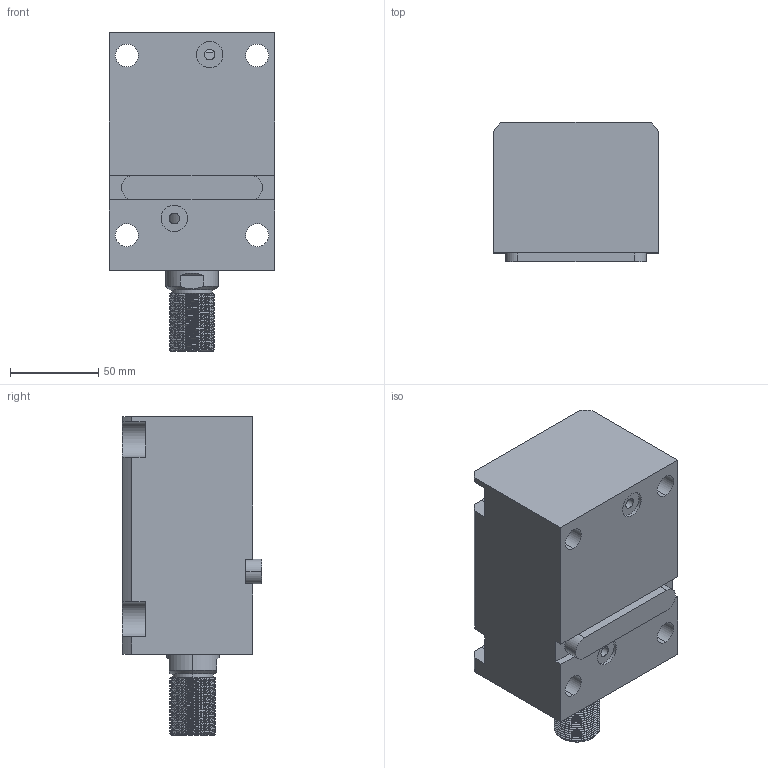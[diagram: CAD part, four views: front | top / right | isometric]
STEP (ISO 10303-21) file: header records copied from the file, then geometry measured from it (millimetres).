
FILE_DESCRIPTION (( 'STEP AP203' ), '1' );
FILE_NAME ('CHTB-LAM50-75W.STEP', '2018-05-23T11:10:12', ( '' ), ( '' ), 'SwSTEP 2.0', 'SolidWorks 2015', '' );
FILE_SCHEMA (( 'CONFIG_CONTROL_DESIGN' ));
Length unit declared in the file: millimetre
Products named in the file (4): 活塞杆LAM50-75W; CHTM-SDMA50QG; 掛极LAM50-75W; CHTB-LAM50-75W
Assembly tree (3 placements, depth 2):
  CHTB-LAM50-75W
    掛极LAM50-75W
    活塞杆LAM50-75W
    CHTM-SDMA50QG
Bounding box: 94 x 79 x 181 mm (x, y, z)
Volume: 815698.1 mm3; surface area: 129964.2 mm2
Topology: 3 solids, 3 shells, 234 faces, 652 edges, 436 vertices
Faces by surface type: cylinder 136, plane 53, bspline 16, torus 16, cone 13
Entity records: 14802 total; most frequent: CARTESIAN_POINT 8867, ORIENTED_EDGE 1296, DIRECTION 1023, EDGE_CURVE 648, VERTEX_POINT 436, AXIS2_PLACEMENT_3D 395, EDGE_LOOP 264, FACE_OUTER_BOUND 234
